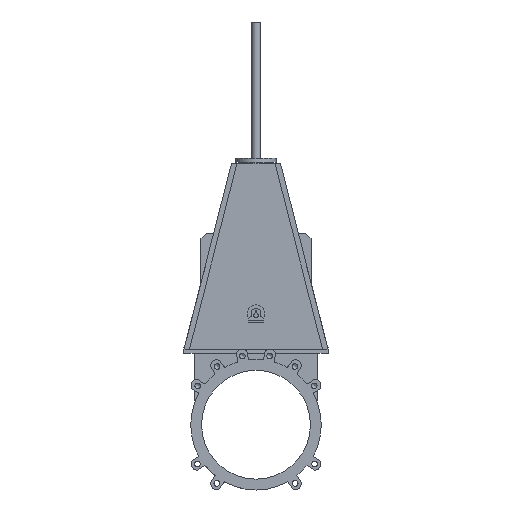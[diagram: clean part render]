
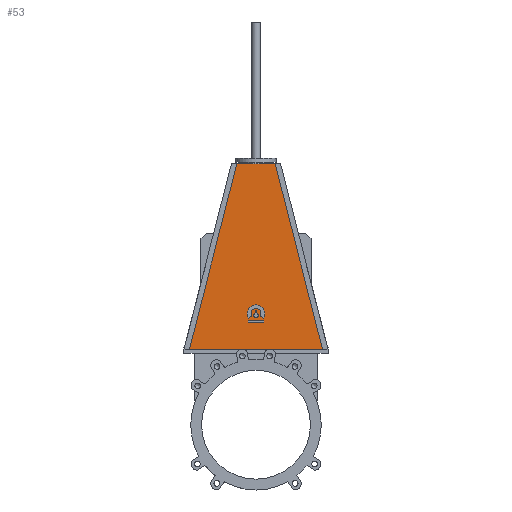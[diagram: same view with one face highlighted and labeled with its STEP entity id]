
A CAD part, front view. The second image highlights one B-rep face of the part: STEP entity #53.
In plain terms, the highlighted planar face has unit normal (0, -1, 0).
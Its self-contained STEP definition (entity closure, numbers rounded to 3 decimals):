
#53=ADVANCED_FACE('',(#2420,#2422,#2424,#2426),#2428,.F.);
#2420=FACE_BOUND('',#2421,.T.);
#2421=EDGE_LOOP('',(#4423,#4424,#4425,#4426,#4427,#4428,#4429,#4430,#4431,#4432));
#2422=FACE_BOUND('',#2423,.T.);
#2423=EDGE_LOOP('',(#4433,#4434,#4435,#4436));
#2424=FACE_BOUND('',#2425,.T.);
#2425=EDGE_LOOP('',(#4437,#4438,#4439,#4440));
#2426=FACE_BOUND('',#2427,.T.);
#2427=EDGE_LOOP('',(#4441,#4442,#4443,#4444,#4445,#4446));
#2428=PLANE('',#2429);
#2429=AXIS2_PLACEMENT_3D('',#2430,#2431,#2432);
#2430=CARTESIAN_POINT('',(245.,-36.,277.5));
#2431=DIRECTION('',(0.,1.,0.));
#2432=DIRECTION('',(-1.,0.,0.));
#4423=ORIENTED_EDGE('',*,*,#5821,.F.);
#4424=ORIENTED_EDGE('',*,*,#5822,.T.);
#4425=ORIENTED_EDGE('',*,*,#5823,.F.);
#4426=ORIENTED_EDGE('',*,*,#5824,.F.);
#4427=ORIENTED_EDGE('',*,*,#5825,.T.);
#4428=ORIENTED_EDGE('',*,*,#5826,.F.);
#4429=ORIENTED_EDGE('',*,*,#5827,.T.);
#4430=ORIENTED_EDGE('',*,*,#5828,.F.);
#4431=ORIENTED_EDGE('',*,*,#5829,.T.);
#4432=ORIENTED_EDGE('',*,*,#5830,.T.);
#4433=ORIENTED_EDGE('',*,*,#5831,.F.);
#4434=ORIENTED_EDGE('',*,*,#5832,.F.);
#4435=ORIENTED_EDGE('',*,*,#5833,.F.);
#4436=ORIENTED_EDGE('',*,*,#5834,.F.);
#4437=ORIENTED_EDGE('',*,*,#5835,.F.);
#4438=ORIENTED_EDGE('',*,*,#5836,.F.);
#4439=ORIENTED_EDGE('',*,*,#5837,.F.);
#4440=ORIENTED_EDGE('',*,*,#5838,.F.);
#4441=ORIENTED_EDGE('',*,*,#5839,.F.);
#4442=ORIENTED_EDGE('',*,*,#5840,.F.);
#4443=ORIENTED_EDGE('',*,*,#5841,.F.);
#4444=ORIENTED_EDGE('',*,*,#5842,.F.);
#4445=ORIENTED_EDGE('',*,*,#5843,.F.);
#4446=ORIENTED_EDGE('',*,*,#5844,.F.);
#5821=EDGE_CURVE('',#6520,#6521,#6522,.F.);
#5822=EDGE_CURVE('',#6520,#6523,#6524,.T.);
#5823=EDGE_CURVE('',#6525,#6523,#6526,.T.);
#5824=EDGE_CURVE('',#6527,#6525,#6528,.T.);
#5825=EDGE_CURVE('',#6527,#6529,#6530,.T.);
#5826=EDGE_CURVE('',#6531,#6529,#6532,.T.);
#5827=EDGE_CURVE('',#6531,#6533,#6534,.T.);
#5828=EDGE_CURVE('',#6535,#6533,#6536,.T.);
#5829=EDGE_CURVE('',#6535,#6537,#6538,.T.);
#5830=EDGE_CURVE('',#6537,#6521,#6539,.T.);
#5831=EDGE_CURVE('',#6540,#6541,#6542,.F.);
#5832=EDGE_CURVE('',#6543,#6540,#6544,.T.);
#5833=EDGE_CURVE('',#6545,#6543,#6546,.F.);
#5834=EDGE_CURVE('',#6541,#6545,#6547,.T.);
#5835=EDGE_CURVE('',#6548,#6549,#6550,.F.);
#5836=EDGE_CURVE('',#6551,#6548,#6552,.F.);
#5837=EDGE_CURVE('',#6553,#6551,#6554,.F.);
#5838=EDGE_CURVE('',#6549,#6553,#6555,.F.);
#5839=EDGE_CURVE('',#6556,#6557,#6558,.F.);
#5840=EDGE_CURVE('',#6559,#6556,#6560,.T.);
#5841=EDGE_CURVE('',#6561,#6559,#6562,.T.);
#5842=EDGE_CURVE('',#6563,#6561,#6564,.T.);
#5843=EDGE_CURVE('',#6565,#6563,#6566,.T.);
#5844=EDGE_CURVE('',#6557,#6565,#6567,.T.);
#6520=VERTEX_POINT('',#7696);
#6521=VERTEX_POINT('',#7697);
#6522=LINE('',#7698,#7699);
#6523=VERTEX_POINT('',#7701);
#6524=LINE('',#7702,#7703);
#6525=VERTEX_POINT('',#7705);
#6526=LINE('',#7706,#7707);
#6527=VERTEX_POINT('',#7709);
#6528=LINE('',#7710,#7711);
#6529=VERTEX_POINT('',#7713);
#6530=CIRCLE('',#7714,23.);
#6531=VERTEX_POINT('',#7718);
#6532=LINE('',#7719,#7720);
#6533=VERTEX_POINT('',#7722);
#6534=CIRCLE('',#7723,23.);
#6535=VERTEX_POINT('',#7727);
#6536=LINE('',#7728,#7729);
#6537=VERTEX_POINT('',#7731);
#6538=LINE('',#7732,#7733);
#6539=LINE('',#7735,#7736);
#6540=VERTEX_POINT('',#7738);
#6541=VERTEX_POINT('',#7739);
#6542=LINE('',#7740,#7741);
#6543=VERTEX_POINT('',#7743);
#6544=CIRCLE('',#7744,32.087);
#6545=VERTEX_POINT('',#7748);
#6546=LINE('',#7749,#7750);
#6547=CIRCLE('',#7752,18.203);
#6548=VERTEX_POINT('',#7756);
#6549=VERTEX_POINT('',#7757);
#6550=LINE('',#7758,#7759);
#6551=VERTEX_POINT('',#7761);
#6552=LINE('',#7762,#7763);
#6553=VERTEX_POINT('',#7765);
#6554=LINE('',#7766,#7767);
#6555=LINE('',#7769,#7770);
#6556=VERTEX_POINT('',#7772);
#6557=VERTEX_POINT('',#7773);
#6558=LINE('',#7774,#7775);
#6559=VERTEX_POINT('',#7777);
#6560=CIRCLE('',#7778,1.002);
#6561=VERTEX_POINT('',#7782);
#6562=CIRCLE('',#7783,33.771);
#6563=VERTEX_POINT('',#7787);
#6564=CIRCLE('',#7788,8.019);
#6565=VERTEX_POINT('',#7792);
#6566=CIRCLE('',#7793,33.771);
#6567=CIRCLE('',#7797,1.002);
#7696=CARTESIAN_POINT('',(-17.436,-36.,960.));
#7697=CARTESIAN_POINT('',(17.436,-36.,960.));
#7698=CARTESIAN_POINT('',(17.436,-36.,960.));
#7699=VECTOR('',#7700,1.);
#7700=DIRECTION('',(-1.,0.,0.));
#7701=CARTESIAN_POINT('',(-70.,-36.,960.));
#7702=CARTESIAN_POINT('',(-17.436,-36.,960.));
#7703=VECTOR('',#7704,1.);
#7704=DIRECTION('',(-1.,0.,0.));
#7705=CARTESIAN_POINT('',(-245.,-36.,277.5));
#7706=CARTESIAN_POINT('',(-245.,-36.,277.5));
#7707=VECTOR('',#7708,1.);
#7708=DIRECTION('',(0.248,0.,0.969));
#7709=CARTESIAN_POINT('',(-51.422,-36.,277.5));
#7710=CARTESIAN_POINT('',(-51.422,-36.,277.5));
#7711=VECTOR('',#7712,1.);
#7712=DIRECTION('',(-1.,0.,0.));
#7713=CARTESIAN_POINT('',(-49.83,-36.,277.5));
#7714=AXIS2_PLACEMENT_3D('',#7715,#7716,#7717);
#7715=CARTESIAN_POINT('',(-50.626,-36.,254.514));
#7716=DIRECTION('',(0.,1.,0.));
#7717=DIRECTION('',(-0.035,0.,0.999));
#7718=CARTESIAN_POINT('',(49.83,-36.,277.5));
#7719=CARTESIAN_POINT('',(49.83,-36.,277.5));
#7720=VECTOR('',#7721,1.);
#7721=DIRECTION('',(-1.,0.,0.));
#7722=CARTESIAN_POINT('',(51.422,-36.,277.5));
#7723=AXIS2_PLACEMENT_3D('',#7724,#7725,#7726);
#7724=CARTESIAN_POINT('',(50.626,-36.,254.514));
#7725=DIRECTION('',(0.,1.,0.));
#7726=DIRECTION('',(-0.035,0.,0.999));
#7727=CARTESIAN_POINT('',(245.,-36.,277.5));
#7728=CARTESIAN_POINT('',(245.,-36.,277.5));
#7729=VECTOR('',#7730,1.);
#7730=DIRECTION('',(-1.,0.,0.));
#7731=CARTESIAN_POINT('',(70.,-36.,960.));
#7732=CARTESIAN_POINT('',(245.,-36.,277.5));
#7733=VECTOR('',#7734,1.);
#7734=DIRECTION('',(-0.248,0.,0.969));
#7735=CARTESIAN_POINT('',(70.,-36.,960.));
#7736=VECTOR('',#7737,1.);
#7737=DIRECTION('',(-1.,0.,0.));
#7738=CARTESIAN_POINT('',(-26.976,-36.,391.541));
#7739=CARTESIAN_POINT('',(-15.304,-36.,399.059));
#7740=CARTESIAN_POINT('',(-15.304,-36.,399.059));
#7741=VECTOR('',#7742,1.);
#7742=DIRECTION('',(-0.841,0.,-0.541));
#7743=CARTESIAN_POINT('',(26.976,-36.,391.541));
#7744=AXIS2_PLACEMENT_3D('',#7745,#7746,#7747);
#7745=CARTESIAN_POINT('',(0.,-36.,408.915));
#7746=DIRECTION('',(0.,-1.,0.));
#7747=DIRECTION('',(0.841,0.,-0.541));
#7748=CARTESIAN_POINT('',(15.304,-36.,399.059));
#7749=CARTESIAN_POINT('',(26.976,-36.,391.541));
#7750=VECTOR('',#7751,1.);
#7751=DIRECTION('',(-0.841,0.,0.541));
#7752=AXIS2_PLACEMENT_3D('',#7753,#7754,#7755);
#7753=CARTESIAN_POINT('',(0.,-36.,408.915));
#7754=DIRECTION('',(0.,1.,0.));
#7755=DIRECTION('',(-0.841,0.,-0.541));
#7756=CARTESIAN_POINT('',(-28.601,-36.,377.5));
#7757=CARTESIAN_POINT('',(28.601,-36.,377.5));
#7758=CARTESIAN_POINT('',(28.601,-36.,377.5));
#7759=VECTOR('',#7760,1.);
#7760=DIRECTION('',(-1.,0.,0.));
#7761=CARTESIAN_POINT('',(-28.601,-36.,384.185));
#7762=CARTESIAN_POINT('',(-28.601,-36.,377.5));
#7763=VECTOR('',#7764,1.);
#7764=DIRECTION('',(0.,0.,1.));
#7765=CARTESIAN_POINT('',(28.601,-36.,384.185));
#7766=CARTESIAN_POINT('',(-28.601,-36.,384.185));
#7767=VECTOR('',#7768,1.);
#7768=DIRECTION('',(1.,0.,0.));
#7769=CARTESIAN_POINT('',(28.601,-36.,384.185));
#7770=VECTOR('',#7771,1.);
#7771=DIRECTION('',(0.,0.,-1.));
#7772=CARTESIAN_POINT('',(0.072,-36.,418.785));
#7773=CARTESIAN_POINT('',(-0.072,-36.,418.785));
#7774=CARTESIAN_POINT('',(-0.072,-36.,418.785));
#7775=VECTOR('',#7776,1.);
#7776=DIRECTION('',(1.,0.,0.));
#7777=CARTESIAN_POINT('',(1.044,-36.,418.03));
#7778=AXIS2_PLACEMENT_3D('',#7779,#7780,#7781);
#7779=CARTESIAN_POINT('',(0.072,-36.,417.783));
#7780=DIRECTION('',(0.,-1.,0.));
#7781=DIRECTION('',(0.969,0.,0.247));
#7782=CARTESIAN_POINT('',(6.48,-36.,406.468));
#7783=AXIS2_PLACEMENT_3D('',#7784,#7785,#7786);
#7784=CARTESIAN_POINT('',(33.771,-36.,426.36));
#7785=DIRECTION('',(0.,1.,0.));
#7786=DIRECTION('',(-0.808,0.,-0.589));
#7787=CARTESIAN_POINT('',(-6.48,-36.,406.468));
#7788=AXIS2_PLACEMENT_3D('',#7789,#7790,#7791);
#7789=CARTESIAN_POINT('',(0.,-36.,401.745));
#7790=DIRECTION('',(0.,-1.,0.));
#7791=DIRECTION('',(-0.808,0.,0.589));
#7792=CARTESIAN_POINT('',(-1.044,-36.,418.03));
#7793=AXIS2_PLACEMENT_3D('',#7794,#7795,#7796);
#7794=CARTESIAN_POINT('',(-33.771,-36.,426.36));
#7795=DIRECTION('',(0.,1.,0.));
#7796=DIRECTION('',(0.969,0.,-0.247));
#7797=AXIS2_PLACEMENT_3D('',#7798,#7799,#7800);
#7798=CARTESIAN_POINT('',(-0.072,-36.,417.783));
#7799=DIRECTION('',(0.,-1.,0.));
#7800=DIRECTION('',(0.,0.,1.));
